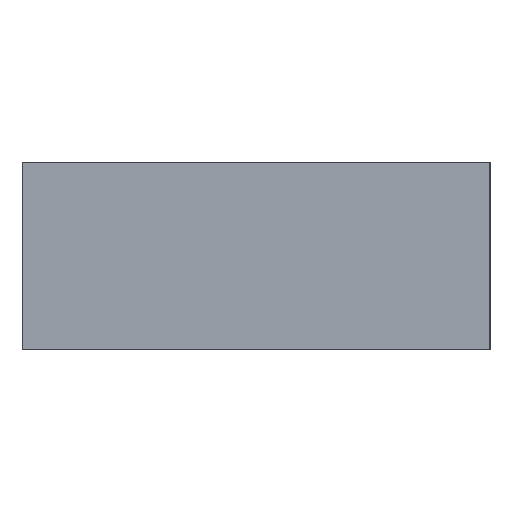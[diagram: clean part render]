
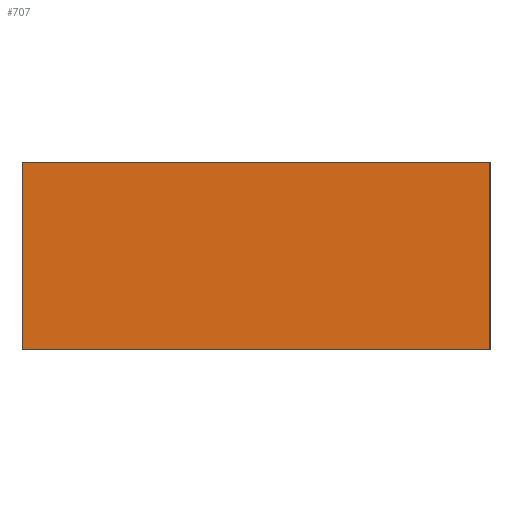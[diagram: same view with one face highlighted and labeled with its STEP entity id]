
A CAD part, left-side view. The second image highlights one B-rep face of the part: STEP entity #707.
In plain terms, the highlighted planar face has unit normal (-1, 0, 0).
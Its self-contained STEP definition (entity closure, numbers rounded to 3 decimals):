
#307 = EDGE_CURVE( '', #669, #633, #815, .T. );
#311 = EDGE_CURVE( '', #429, #533, #819, .T. );
#393 = EDGE_CURVE( '', #429, #669, #912, .T. );
#429 = VERTEX_POINT( '', #950 );
#533 = VERTEX_POINT( '', #1064 );
#553 = EDGE_CURVE( '', #533, #633, #1086, .T. );
#633 = VERTEX_POINT( '', #1173 );
#669 = VERTEX_POINT( '', #1212 );
#707 = ADVANCED_FACE( '', ( #1253 ), #1254, .T. );
#815 = LINE( '', #1379, #1380 );
#819 = LINE( '', #1386, #1387 );
#912 = LINE( '', #1518, #1519 );
#950 = CARTESIAN_POINT( '', ( -4., 0., 7. ) );
#1064 = CARTESIAN_POINT( '', ( -4., 0., -7. ) );
#1086 = LINE( '', #1762, #1763 );
#1173 = CARTESIAN_POINT( '', ( -4., -35., -7. ) );
#1212 = CARTESIAN_POINT( '', ( -4., -35., 7. ) );
#1253 = FACE_OUTER_BOUND( '', #1998, .T. );
#1254 = PLANE( '', #1999 );
#1379 = CARTESIAN_POINT( '', ( -4., -35., 7. ) );
#1380 = VECTOR( '', #2113, 1. );
#1386 = CARTESIAN_POINT( '', ( -4., 0., 7. ) );
#1387 = VECTOR( '', #2117, 1. );
#1518 = CARTESIAN_POINT( '', ( -4., 0., 7. ) );
#1519 = VECTOR( '', #2255, 1. );
#1762 = CARTESIAN_POINT( '', ( -4., 0., -7. ) );
#1763 = VECTOR( '', #2421, 1. );
#1998 = EDGE_LOOP( '', ( #2580, #2581, #2582, #2583 ) );
#1999 = AXIS2_PLACEMENT_3D( '', #2584, #2585, #2586 );
#2113 = DIRECTION( '', ( 0., 0., -1. ) );
#2117 = DIRECTION( '', ( 0., 0., -1. ) );
#2255 = DIRECTION( '', ( 0., -1., 0. ) );
#2421 = DIRECTION( '', ( 0., -1., 0. ) );
#2580 = ORIENTED_EDGE( '', *, *, #553, .T. );
#2581 = ORIENTED_EDGE( '', *, *, #307, .F. );
#2582 = ORIENTED_EDGE( '', *, *, #393, .F. );
#2583 = ORIENTED_EDGE( '', *, *, #311, .T. );
#2584 = CARTESIAN_POINT( '', ( -4., 0., 7. ) );
#2585 = DIRECTION( '', ( -1., 0., 0. ) );
#2586 = DIRECTION( '', ( 0., 1., 0. ) );
